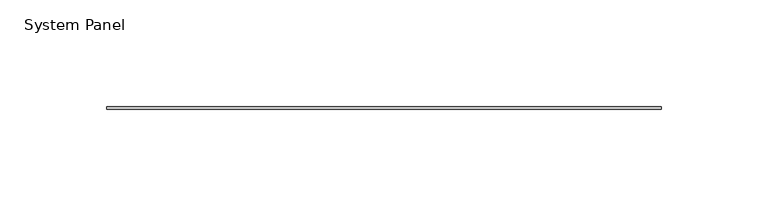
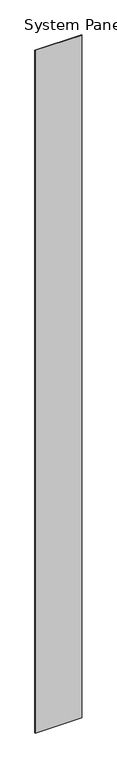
"""IFC4 building model written with IfcOpenShell, lengths in millimetres: plate geometry, System Panel : Stratco_Hiland_Interlock_Panel."""

import ifcopenshell
import ifcopenshell.guid

model = None  # the IFC model being written
_history = None  # IfcOwnerHistory: only IFC2X3 demands one
_inside = {}  # id of a spatial element -> (the spatial element, [elements in it])
_under = {}  # id of a project, library or spatial element -> (it, [spatial elements below it])
_declared = {}  # id of a project -> (the project, [libraries it declares])
_typed = {}  # id of a type object -> (the type object, [elements of that type])
_made_of = {}  # id of a material, layer set ... -> (it, [elements and type objects made of it])


def new_model(schema):
    """Start an empty IFC model of exactly this schema.

    Asked for "IFC4X3", IfcOpenShell would pick the latest addendum, in which some entities
    have other attributes; the version numbers below select the first issue.
    IFC2X3 requires an IfcOwnerHistory on every rooted entity: one is made here for all.
    """
    global model, _history
    if schema == "IFC4X3":
        model = ifcopenshell.file(schema_version=(4, 3, 0, 0))
    else:
        model = ifcopenshell.file(schema=schema)
    _inside.clear()
    _under.clear()
    _declared.clear()
    _typed.clear()
    _made_of.clear()
    _history = None
    if model.schema == "IFC2X3":
        org = make("IfcOrganization", Name="unknown")
        user = make(
            "IfcPersonAndOrganization",
            ThePerson=make("IfcPerson", FamilyName="unknown"),
            TheOrganization=org,
        )
        app = make(
            "IfcApplication",
            ApplicationDeveloper=org,
            Version="unknown",
            ApplicationFullName="unknown",
            ApplicationIdentifier="unknown",
        )
        _history = make(
            "IfcOwnerHistory",
            OwningUser=user,
            OwningApplication=app,
            ChangeAction="ADDED",
            CreationDate=0,
        )
    return model


def make(cls, **values):
    """One entity of the class cls with the attributes given. An attribute that is None is left unset."""
    return model.create_entity(
        cls, **{name: value for name, value in values.items() if value is not None}
    )


def rooted(cls, **values):
    """An entity with a GlobalId (a new one), such as an element, a storey or a relation."""
    return make(cls, GlobalId=ifcopenshell.guid.new(), OwnerHistory=_history, **values)


def si_unit(unit_type, name, prefix=None):
    """IfcSIUnit, for example si_unit("LENGTHUNIT", "METRE", prefix="MILLI")."""
    return make("IfcSIUnit", UnitType=unit_type, Prefix=prefix, Name=name)


def assignment(units):
    """IfcUnitAssignment: the units of a project."""
    return None if units is None else make("IfcUnitAssignment", Units=units)


def point(xyz):
    """IfcCartesianPoint."""
    return None if xyz is None else make("IfcCartesianPoint", Coordinates=xyz)


def direction(xyz):
    """IfcDirection."""
    return None if xyz is None else make("IfcDirection", DirectionRatios=xyz)


def frame(location, z_axis=None, x_axis=None):
    """IfcAxis2Placement3D, a coordinate frame: its origin and axes. An axis left out is left unset."""
    return make(
        "IfcAxis2Placement3D",
        Location=point(location),
        Axis=direction(z_axis),
        RefDirection=direction(x_axis),
    )


def origin():
    """The frame at (0, 0, 0) with its axes left unset."""
    return frame((0.0, 0.0, 0.0))


def origin_with_axes():
    """The frame at (0, 0, 0) with the z axis (0, 0, 1) and the x axis (1, 0, 0) written out."""
    return frame((0.0, 0.0, 0.0), z_axis=(0.0, 0.0, 1.0), x_axis=(1.0, 0.0, 0.0))


def place(relative_to, where):
    """IfcLocalPlacement: puts the frame where relative to a parent placement (None: the world)."""
    return make(
        "IfcLocalPlacement", PlacementRelTo=relative_to, RelativePlacement=where
    )


def context(
    kind, dimensions, precision=None, world=None, true_north=None, identifier=None
):
    """IfcGeometricRepresentationContext, for example the 3D "Model" context."""
    return make(
        "IfcGeometricRepresentationContext",
        ContextIdentifier=identifier,
        ContextType=kind,
        CoordinateSpaceDimension=dimensions,
        Precision=precision,
        WorldCoordinateSystem=world,
        TrueNorth=true_north,
    )


def project(units=None, contexts=None):
    """IfcProject with its units and contexts."""
    return rooted(
        "IfcProject",
        Name="project",
        RepresentationContexts=contexts,
        UnitsInContext=assignment(units),
    )


def spatial(cls, under=None, at=None, **own):
    """A site, building, storey or space (cls), placed at a placement, below another one or the project."""
    s = rooted(cls, ObjectPlacement=at, **own)
    if under is not None:
        _under.setdefault(under.id(), (under, []))[1].append(s)
    return s


def polyline(points):
    """IfcPolyline through the points."""
    return make("IfcPolyline", Points=[point(p) for p in points])


def outline(outer, holes=None, kind="AREA"):
    """IfcArbitraryClosedProfileDef: a profile drawn as a closed curve; with holes, ...WithVoids."""
    if holes is None:
        return make("IfcArbitraryClosedProfileDef", ProfileType=kind, OuterCurve=outer)
    return make(
        "IfcArbitraryProfileDefWithVoids",
        ProfileType=kind,
        OuterCurve=outer,
        InnerCurves=holes,
    )


def extrude(swept, where, along, depth):
    """IfcExtrudedAreaSolid: the profile swept, set in the frame where, extruded along a direction by depth."""
    return make(
        "IfcExtrudedAreaSolid",
        SweptArea=swept,
        Position=where,
        ExtrudedDirection=direction(along),
        Depth=depth,
    )


def shape(context_of_items, identifier, shape_type, items):
    """IfcShapeRepresentation: the items that make up one representation, for example the "Body"."""
    return make(
        "IfcShapeRepresentation",
        ContextOfItems=context_of_items,
        RepresentationIdentifier=identifier,
        RepresentationType=shape_type,
        Items=items,
    )


def source(mapping_origin, context_of_items, identifier, shape_type, items):
    """IfcRepresentationMap: a shape defined once, which mapped items show again and again."""
    return make(
        "IfcRepresentationMap",
        MappingOrigin=mapping_origin,
        MappedRepresentation=shape(context_of_items, identifier, shape_type, items),
    )


def transform(
    local_origin,
    x_axis=None,
    y_axis=None,
    z_axis=None,
    scale=None,
    scale2=None,
    scale3=None,
    uniform=True,
):
    """IfcCartesianTransformationOperator3D, or its non-uniform kind. x_axis, y_axis, z_axis: its Axis1, 2, 3."""
    if uniform:
        return make(
            "IfcCartesianTransformationOperator3D",
            Axis1=direction(x_axis),
            Axis2=direction(y_axis),
            LocalOrigin=point(local_origin),
            Scale=scale,
            Axis3=direction(z_axis),
        )
    return make(
        "IfcCartesianTransformationOperator3DnonUniform",
        Axis1=direction(x_axis),
        Axis2=direction(y_axis),
        LocalOrigin=point(local_origin),
        Scale=scale,
        Axis3=direction(z_axis),
        Scale2=scale2,
        Scale3=scale3,
    )


def mapped(mapping_source, mapping_target):
    """IfcMappedItem: shows the shape of a source again, moved by a transform."""
    return make(
        "IfcMappedItem", MappingSource=mapping_source, MappingTarget=mapping_target
    )


def made_of(thing, what):
    """Note that an element or type object is made of a material, layer set ...; save() writes the relation."""
    if what is not None:
        _made_of.setdefault(what.id(), (what, []))[1].append(thing)
    return thing


def element(
    cls,
    number,
    at=None,
    inside=None,
    cuts=None,
    type_object=None,
    material=None,
    context=None,
    identifier="Body",
    shape_type=None,
    held_by="IfcProductDefinitionShape",
    body=None,
    shapes=None,
    **own,
):
    """One element of the class cls, such as IfcWall. Its Tag is "e" and its number.

    at: its placement. inside: the storey or other place that contains it. cuts: it is an
    opening in that element (IfcRelVoidsElement). A single representation is given by context,
    identifier, shape_type and body (its items); several are given by shapes. held_by: the class
    of the entity that holds the representations. save() writes the other relations.
    """
    e = rooted(cls, Tag="e%d" % number, ObjectPlacement=at, **own)
    if body is not None:
        shapes = [shape(context, identifier, shape_type, body)]
    if shapes is not None:
        e.Representation = make(held_by, Representations=shapes)
    if inside is not None:
        _inside.setdefault(inside.id(), (inside, []))[1].append(e)
    if cuts is not None:
        rooted(
            "IfcRelVoidsElement", RelatingBuildingElement=cuts, RelatedOpeningElement=e
        )
    if type_object is not None:
        _typed.setdefault(type_object.id(), (type_object, []))[1].append(e)
    return made_of(e, material)


def aggregate(whole, parts):
    """IfcRelAggregates: a whole, such as a stair, and the parts it consists of."""
    return rooted("IfcRelAggregates", RelatingObject=whole, RelatedObjects=parts)


def save(model, path):
    """Write the relations noted so far, then the file.

    IfcRelAggregates (storeys below a building ...), IfcRelContainedInSpatialStructure (elements
    in a storey), IfcRelDefinesByType, IfcRelAssociatesMaterial and IfcRelDeclares: one each for
    every whole, place, type object, material and project.
    """
    for whole, parts in _under.values():
        aggregate(whole, parts)
    for where, things in _inside.values():
        rooted(
            "IfcRelContainedInSpatialStructure",
            RelatedElements=things,
            RelatingStructure=where,
        )
    for kind, things in _typed.values():
        rooted("IfcRelDefinesByType", RelatedObjects=things, RelatingType=kind)
    for what, things in _made_of.values():
        rooted("IfcRelAssociatesMaterial", RelatedObjects=things, RelatingMaterial=what)
    for by, libraries in _declared.values():
        rooted("IfcRelDeclares", RelatingContext=by, RelatedDefinitions=libraries)
    model.write(path)


def system_panel_ed8ddb89(model_context):
    return source(origin(), model_context, "Body", "SweptSolid", [
        extrude(outline(polyline([(129.4514014, 24.0), (-129.4514014, 24.0), (-129.4514014, 25.0), (129.4514014, 25.0), (129.4514014, 24.0)])), origin_with_axes(), (0.0, 0.0, 1.0), 4000.0),
    ])


if __name__ == "__main__":
    model = new_model("IFC4")
    model_context = context("Model", 3, world=origin())
    ifc_project = project(units=[si_unit("LENGTHUNIT", "METRE", prefix="MILLI")], contexts=[model_context])
    site = spatial("IfcSite", under=ifc_project)
    building = spatial("IfcBuilding", under=site)
    placement = place(None, origin())
    system_panel_shape = system_panel_ed8ddb89(model_context)
    element("IfcPlate", 1, ObjectType="System Panel : Stratco_Hiland_Interlock_Panel", at=placement, inside=building, context=model_context, shape_type="MappedRepresentation", body=[
        mapped(system_panel_shape, transform((0.0, 0.0, 0.0), x_axis=(1.0, 0.0, 0.0), y_axis=(0.0, 1.0, 0.0), z_axis=(0.0, 0.0, 1.0))),
    ])
    save(model, "model.ifc")
